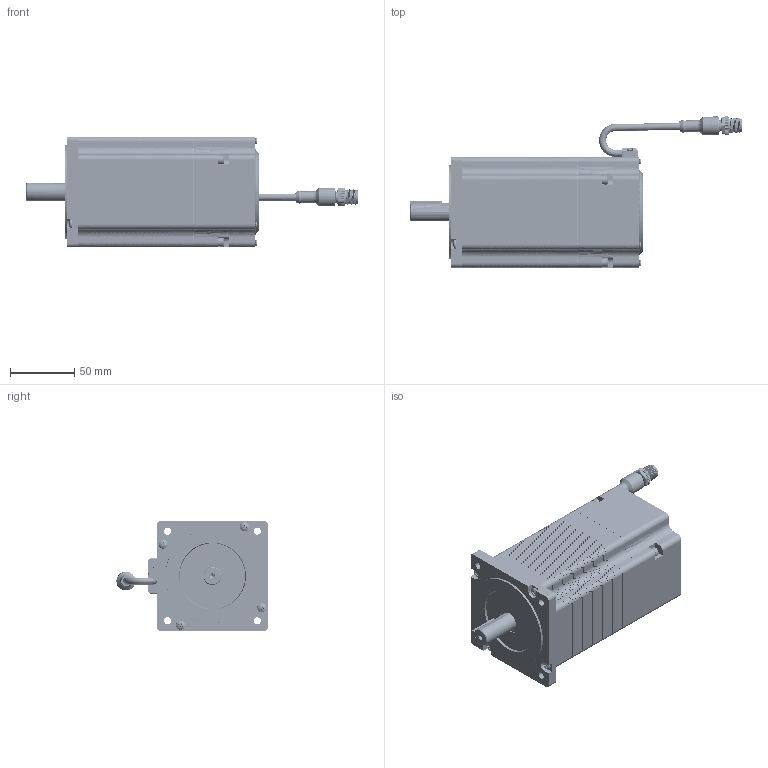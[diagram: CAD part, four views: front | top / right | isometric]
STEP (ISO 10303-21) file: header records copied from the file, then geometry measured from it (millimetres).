
FILE_DESCRIPTION (( 'STEP AP214' ), '1' );
FILE_NAME ('AB-SM-34-WB.STEP', '2024-09-26T18:14:07', ( '' ), ( '' ), 'SwSTEP 2.0', 'SolidWorks 2023', '' );
FILE_SCHEMA (( 'AUTOMOTIVE_DESIGN' ));
Length unit declared in the file: millimetre
Products named in the file (1): AB-SM-34-WB
Bounding box: 257.8 x 117.55 x 85.8 mm (x, y, z)
Surface area: 130027.4 mm2 (no closed solid volume)
Topology: 0 solids, 40 shells, 4721 faces, 13359 edges, 8857 vertices
Faces by surface type: bspline 4721
Entity records: 174459 total; most frequent: CARTESIAN_POINT 97877, ORIENTED_EDGE 26276, EDGE_CURVE 13331, B_SPLINE_CURVE_WITH_KNOTS 10660, VERTEX_POINT 8857, EDGE_LOOP 4947, ADVANCED_FACE 4721, FACE_OUTER_BOUND 4721
